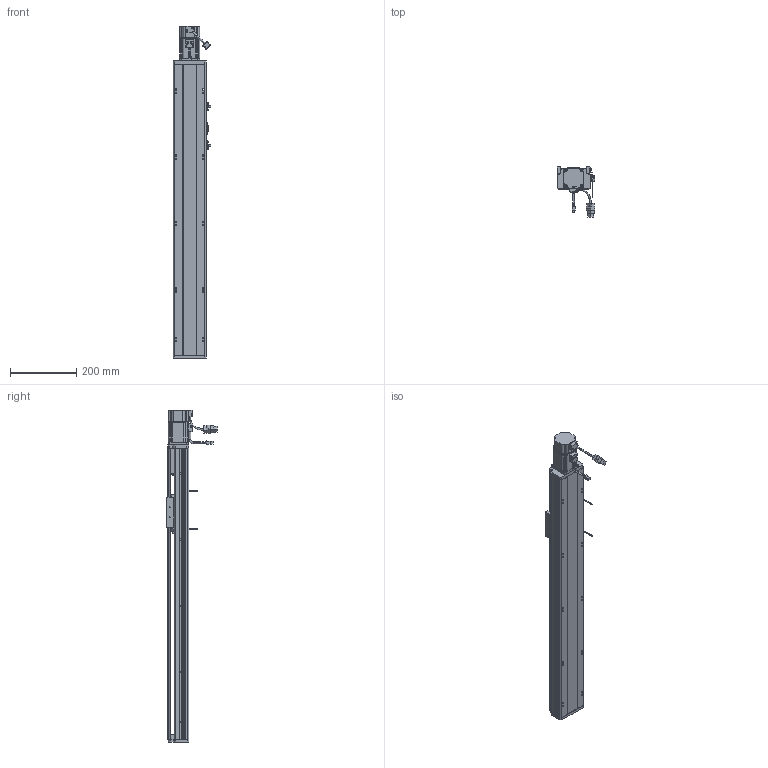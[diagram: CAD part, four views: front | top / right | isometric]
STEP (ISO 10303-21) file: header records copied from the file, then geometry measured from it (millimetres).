
FILE_DESCRIPTION (( 'STEP AP214' ), '1' );
FILE_NAME ('CTH10-650.STEP', '2019-11-18T08:09:22', ( '微软用户' ), ( '微软中国' ), 'SwSTEP 2.0', 'SolidWorks 2017', '' );
FILE_SCHEMA (( 'AUTOMOTIVE_DESIGN' ));
Length unit declared in the file: millimetre
Products named in the file (34): CTH10-650; CTH10-底座_默认<按加工>; CTH10-移动座_默认<按加工>; CTH10-蹟簽蟀諉啣; CTH10-盓傅釱; CTH10-傷啣; CTH10-侜督萇儂啣; SFH1605-288; SFH1605; CTH10-盖板_默认<按加工>; 怢湛200W侜督萇儂ECMA-CX0602ES; CTH10-粣創釱; BEARING_BaseModel20190604090351; 7001-DF; 粣創揤啣; COL12B-粣遠; 坶踡蹟譫; M4-L8囀鞠褒蹟佪; M3-L10囀鞠褒蹟佪; CTH10粣創釱蚾饜极; M5-L20囀鞠褒蹟佪; 遣喳蝶15x12x8; 6000Z粣創; M4-L6半圆头内六角螺丝; EE-SX672; M3-L8囀鞠褒蹟佪; 100耀郪-覜茼んえ; MGN12C; MGN12C-R1; MGN12C-2R420-Z0CHC; 噩砃M3-L10囀鞠褒蹟佪; 噩砃MGN12C; 噩砃MGN12C-R1; 噩砃MGN12C-2R420-Z0CHC
Assembly tree (100 placements, depth 4):
  CTH10-650
    CTH10-底座_默认<按加工>
    CTH10-移动座_默认<按加工>
    CTH10-蹟簽蟀諉啣
    CTH10-盓傅釱
    CTH10-傷啣
    CTH10-侜督萇儂啣
    SFH1605-288
    SFH1605
    CTH10-盖板_默认<按加工>
    怢湛200W侜督萇儂ECMA-CX0602ES
    CTH10粣創釱蚾饜极
      CTH10-粣創釱
      7001-DF
        BEARING_BaseModel20190604090351  x2
      粣創揤啣
      COL12B-粣遠  x2
      坶踡蹟譫
      M4-L8囀鞠褒蹟佪  x4
      M3-L10囀鞠褒蹟佪  x6
    M3-L10囀鞠褒蹟佪  x19
    M5-L20囀鞠褒蹟佪  x4
    遣喳蝶15x12x8  x3
    6000Z粣創
    M4-L6半圆头内六角螺丝  x4
    M4-L8囀鞠褒蹟佪  x8
    EE-SX672  x2
    M3-L8囀鞠褒蹟佪  x4
    100耀郪-覜茼んえ
    MGN12C-2R420-Z0CHC
      MGN12C
      MGN12C-R1  x2
      M3-L10囀鞠褒蹟佪  x8
    噩砃M3-L10囀鞠褒蹟佪
    噩砃MGN12C-2R420-Z0CHC
      噩砃MGN12C
      噩砃MGN12C-R1  x2
      噩砃M3-L10囀鞠褒蹟佪  x8
Bounding box: 114.24 x 151.37 x 1002 mm (x, y, z)
Volume: 2591970.1 mm3; surface area: 957884.9 mm2
Topology: 96 solids, 105 shells, 4613 faces, 11642 edges, 7262 vertices
Faces by surface type: plane 2326, cylinder 1400, cone 601, bspline 241, torus 33, sphere 12
Entity records: 97114 total; most frequent: CARTESIAN_POINT 29530, ORIENTED_EDGE 13788, DIRECTION 13189, EDGE_CURVE 6894, AXIS2_PLACEMENT_3D 4698, VERTEX_POINT 4476, LINE 3793, VECTOR 3793
